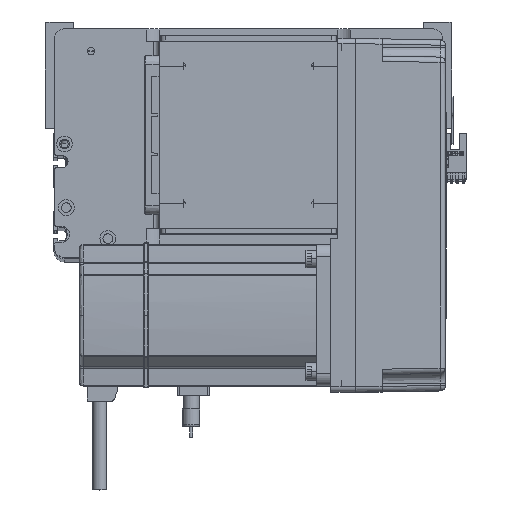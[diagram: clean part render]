
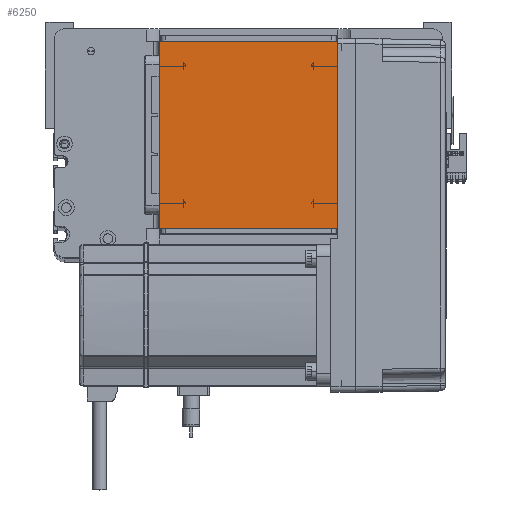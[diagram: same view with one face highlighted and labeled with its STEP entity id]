
A CAD part, top view. The second image highlights one B-rep face of the part: STEP entity #6250.
In plain terms, the highlighted planar face has unit normal (0, 0, 1).
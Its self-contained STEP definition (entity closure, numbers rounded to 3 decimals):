
#3771 = DIRECTION ( 'NONE',  ( 0., 1., 0. ) ) ;
#4302 = EDGE_CURVE ( 'NONE', #29207, #39240, #13343, .T. ) ;
#5308 = VERTEX_POINT ( 'NONE', #29860 ) ;
#5318 = DIRECTION ( 'NONE',  ( 1., 0., 0. ) ) ;
#6250 = ADVANCED_FACE ( 'NONE', ( #37707 ), #41668, .T. ) ;
#8202 = EDGE_LOOP ( 'NONE', ( #24372, #45630, #8550, #45919 ) ) ;
#8207 = EDGE_CURVE ( 'NONE', #5308, #29207, #47758, .T. ) ;
#8550 = ORIENTED_EDGE ( 'NONE', *, *, #46029, .T. ) ;
#8988 = VECTOR ( 'NONE', #12487, 1000. ) ;
#12487 = DIRECTION ( 'NONE',  ( 1., 0., 0. ) ) ;
#12601 = LINE ( 'NONE', #32095, #49701 ) ;
#13343 = LINE ( 'NONE', #42483, #41663 ) ;
#13874 = CARTESIAN_POINT ( 'NONE',  ( 0., 0., 115. ) ) ;
#18928 = DIRECTION ( 'NONE',  ( 0., -1., 0. ) ) ;
#20981 = CARTESIAN_POINT ( 'NONE',  ( -50.5, 16., 115. ) ) ;
#21230 = AXIS2_PLACEMENT_3D ( 'NONE', #13874, #22017, #5318 ) ;
#21670 = EDGE_CURVE ( 'NONE', #39240, #32362, #24740, .T. ) ;
#22017 = DIRECTION ( 'NONE',  ( 0., 0., 1. ) ) ;
#23862 = VECTOR ( 'NONE', #24109, 1000. ) ;
#24109 = DIRECTION ( 'NONE',  ( -1., 0., 0. ) ) ;
#24372 = ORIENTED_EDGE ( 'NONE', *, *, #4302, .T. ) ;
#24740 = LINE ( 'NONE', #20981, #8988 ) ;
#24889 = CARTESIAN_POINT ( 'NONE',  ( -50.5, 16., 115. ) ) ;
#29207 = VERTEX_POINT ( 'NONE', #30197 ) ;
#29860 = CARTESIAN_POINT ( 'NONE',  ( 50.5, 122., 115. ) ) ;
#30197 = CARTESIAN_POINT ( 'NONE',  ( -50.5, 122., 115. ) ) ;
#32095 = CARTESIAN_POINT ( 'NONE',  ( 50.5, 122., 115. ) ) ;
#32362 = VERTEX_POINT ( 'NONE', #51360 ) ;
#37707 = FACE_OUTER_BOUND ( 'NONE', #8202, .T. ) ;
#39240 = VERTEX_POINT ( 'NONE', #24889 ) ;
#41663 = VECTOR ( 'NONE', #18928, 1000. ) ;
#41668 = PLANE ( 'NONE',  #21230 ) ;
#42483 = CARTESIAN_POINT ( 'NONE',  ( -50.5, 122., 115. ) ) ;
#45630 = ORIENTED_EDGE ( 'NONE', *, *, #21670, .T. ) ;
#45919 = ORIENTED_EDGE ( 'NONE', *, *, #8207, .T. ) ;
#46029 = EDGE_CURVE ( 'NONE', #32362, #5308, #12601, .T. ) ;
#47758 = LINE ( 'NONE', #48157, #23862 ) ;
#48157 = CARTESIAN_POINT ( 'NONE',  ( -50.5, 122., 115. ) ) ;
#49701 = VECTOR ( 'NONE', #3771, 1000. ) ;
#51360 = CARTESIAN_POINT ( 'NONE',  ( 50.5, 16., 115. ) ) ;
